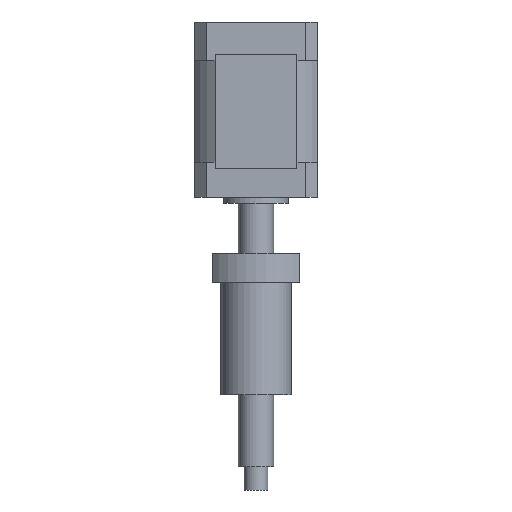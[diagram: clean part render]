
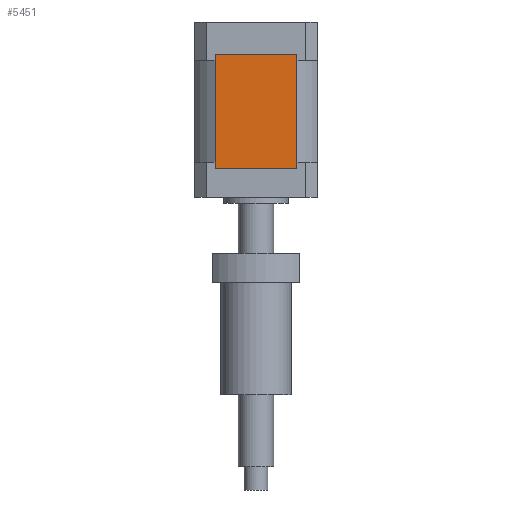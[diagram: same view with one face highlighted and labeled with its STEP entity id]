
A CAD part, front view. The second image highlights one B-rep face of the part: STEP entity #5451.
In plain terms, the highlighted planar face has unit normal (0, -1, 0).
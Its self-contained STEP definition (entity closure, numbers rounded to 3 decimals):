
#5 = CARTESIAN_POINT ( 'NONE',  ( -14., -21., 42. ) ) ;
#458 = VECTOR ( 'NONE', #3393, 1000. ) ;
#497 = CARTESIAN_POINT ( 'NONE',  ( 14., -21., 68. ) ) ;
#515 = PLANE ( 'NONE',  #1543 ) ;
#668 = ORIENTED_EDGE ( 'NONE', *, *, #3324, .F. ) ;
#1076 = DIRECTION ( 'NONE',  ( 0., 1., 0. ) ) ;
#1174 = LINE ( 'NONE', #7010, #7011 ) ;
#1254 = EDGE_CURVE ( 'NONE', #1614, #1999, #1174, .T. ) ;
#1543 = AXIS2_PLACEMENT_3D ( 'NONE', #4457, #1076, #5020 ) ;
#1614 = VERTEX_POINT ( 'NONE', #7128 ) ;
#1977 = LINE ( 'NONE', #3312, #458 ) ;
#1999 = VERTEX_POINT ( 'NONE', #497 ) ;
#2211 = LINE ( 'NONE', #5, #4861 ) ;
#2842 = DIRECTION ( 'NONE',  ( 1., 0., 0. ) ) ;
#2877 = LINE ( 'NONE', #6804, #4223 ) ;
#3284 = VERTEX_POINT ( 'NONE', #6730 ) ;
#3312 = CARTESIAN_POINT ( 'NONE',  ( 14., -21., 42. ) ) ;
#3324 = EDGE_CURVE ( 'NONE', #1999, #3284, #1977, .T. ) ;
#3393 = DIRECTION ( 'NONE',  ( 0., 0., -1. ) ) ;
#3854 = DIRECTION ( 'NONE',  ( 0., 0., -1. ) ) ;
#4223 = VECTOR ( 'NONE', #2842, 1000. ) ;
#4457 = CARTESIAN_POINT ( 'NONE',  ( 0., -21., 42. ) ) ;
#4692 = EDGE_CURVE ( 'NONE', #1614, #6354, #2211, .T. ) ;
#4861 = VECTOR ( 'NONE', #3854, 1000. ) ;
#5020 = DIRECTION ( 'NONE',  ( 1., 0., 0. ) ) ;
#5240 = ORIENTED_EDGE ( 'NONE', *, *, #1254, .F. ) ;
#5451 = ADVANCED_FACE ( 'NONE', ( #6381 ), #515, .F. ) ;
#6169 = ORIENTED_EDGE ( 'NONE', *, *, #4692, .T. ) ;
#6354 = VERTEX_POINT ( 'NONE', #6399 ) ;
#6381 = FACE_OUTER_BOUND ( 'NONE', #6402, .T. ) ;
#6399 = CARTESIAN_POINT ( 'NONE',  ( -14., -21., 29. ) ) ;
#6402 = EDGE_LOOP ( 'NONE', ( #6512, #668, #5240, #6169 ) ) ;
#6512 = ORIENTED_EDGE ( 'NONE', *, *, #7124, .T. ) ;
#6730 = CARTESIAN_POINT ( 'NONE',  ( 14., -21., 29. ) ) ;
#6804 = CARTESIAN_POINT ( 'NONE',  ( 0., -21., 29. ) ) ;
#7010 = CARTESIAN_POINT ( 'NONE',  ( 0., -21., 68. ) ) ;
#7011 = VECTOR ( 'NONE', #7290, 1000. ) ;
#7124 = EDGE_CURVE ( 'NONE', #6354, #3284, #2877, .T. ) ;
#7128 = CARTESIAN_POINT ( 'NONE',  ( -14., -21., 68. ) ) ;
#7290 = DIRECTION ( 'NONE',  ( 1., 0., 0. ) ) ;
